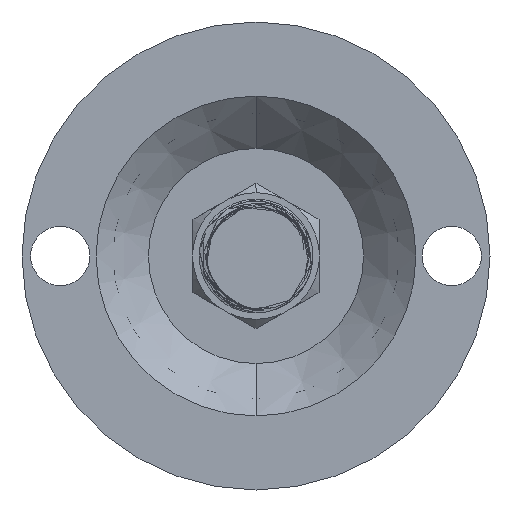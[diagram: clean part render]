
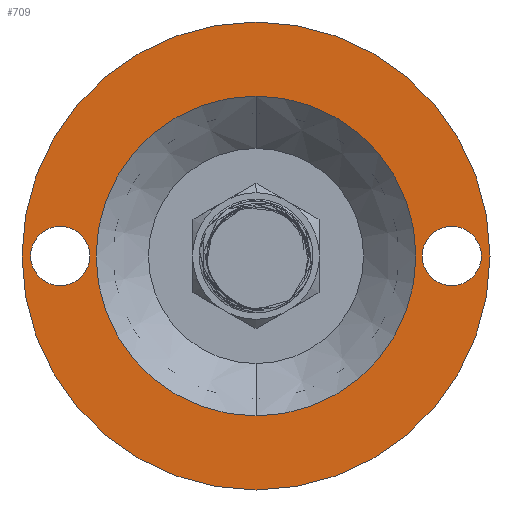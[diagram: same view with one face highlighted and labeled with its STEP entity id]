
A CAD part, front view. The second image highlights one B-rep face of the part: STEP entity #709.
In plain terms, the highlighted planar face has unit normal (0, -1, 0).
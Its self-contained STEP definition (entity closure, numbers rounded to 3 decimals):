
#93 = FACE_BOUND ( 'NONE', #3956, .T. ) ;
#267 = AXIS2_PLACEMENT_3D ( 'NONE', #12745, #2588, #3777 ) ;
#343 = AXIS2_PLACEMENT_3D ( 'NONE', #14501, #2248, #3191 ) ;
#350 = DIRECTION ( 'NONE',  ( 0., 1., 0. ) ) ;
#618 = EDGE_CURVE ( 'NONE', #14143, #2706, #9465, .T. ) ;
#709 = ADVANCED_FACE ( 'NONE', ( #7819, #93, #2240, #11521 ), #6916, .T. ) ;
#771 = CIRCLE ( 'NONE', #6459, 49. ) ;
#915 = ORIENTED_EDGE ( 'NONE', *, *, #618, .T. ) ;
#1201 = ORIENTED_EDGE ( 'NONE', *, *, #13393, .T. ) ;
#1269 = EDGE_CURVE ( 'NONE', #9175, #9105, #3286, .T. ) ;
#1402 = AXIS2_PLACEMENT_3D ( 'NONE', #4876, #350, #13785 ) ;
#1449 = CARTESIAN_POINT ( 'NONE',  ( 0., 0., 0. ) ) ;
#1478 = DIRECTION ( 'NONE',  ( 0., -1., 0. ) ) ;
#1965 = EDGE_CURVE ( 'NONE', #9105, #9175, #7647, .T. ) ;
#2089 = CARTESIAN_POINT ( 'NONE',  ( -41., 0., 0. ) ) ;
#2240 = FACE_OUTER_BOUND ( 'NONE', #5464, .T. ) ;
#2248 = DIRECTION ( 'NONE',  ( 0., -1., 0. ) ) ;
#2324 = AXIS2_PLACEMENT_3D ( 'NONE', #4398, #10068, #10358 ) ;
#2588 = DIRECTION ( 'NONE',  ( 0., 1., 0. ) ) ;
#2625 = CARTESIAN_POINT ( 'NONE',  ( 0., 0., 49. ) ) ;
#2706 = VERTEX_POINT ( 'NONE', #5864 ) ;
#3191 = DIRECTION ( 'NONE',  ( 0., 0., -1. ) ) ;
#3286 = CIRCLE ( 'NONE', #1402, 6.2 ) ;
#3371 = EDGE_CURVE ( 'NONE', #8239, #11345, #771, .T. ) ;
#3503 = DIRECTION ( 'NONE',  ( 0., 0., -1. ) ) ;
#3777 = DIRECTION ( 'NONE',  ( 0., 0., 1. ) ) ;
#3956 = EDGE_LOOP ( 'NONE', ( #5958, #6934 ) ) ;
#4145 = ORIENTED_EDGE ( 'NONE', *, *, #3371, .T. ) ;
#4398 = CARTESIAN_POINT ( 'NONE',  ( 0., 0., -33.5 ) ) ;
#4485 = CARTESIAN_POINT ( 'NONE',  ( 0., 0., 0. ) ) ;
#4543 = CARTESIAN_POINT ( 'NONE',  ( 0., 0., -49. ) ) ;
#4812 = AXIS2_PLACEMENT_3D ( 'NONE', #1449, #12796, #11693 ) ;
#4876 = CARTESIAN_POINT ( 'NONE',  ( 41., 0., 0. ) ) ;
#5037 = VERTEX_POINT ( 'NONE', #9000 ) ;
#5117 = ORIENTED_EDGE ( 'NONE', *, *, #7380, .F. ) ;
#5150 = VERTEX_POINT ( 'NONE', #7056 ) ;
#5245 = CIRCLE ( 'NONE', #267, 6.2 ) ;
#5464 = EDGE_LOOP ( 'NONE', ( #1201, #4145 ) ) ;
#5675 = DIRECTION ( 'NONE',  ( 0., -1., 0. ) ) ;
#5864 = CARTESIAN_POINT ( 'NONE',  ( -41., 0., 6.2 ) ) ;
#5958 = ORIENTED_EDGE ( 'NONE', *, *, #1965, .T. ) ;
#6459 = AXIS2_PLACEMENT_3D ( 'NONE', #10064, #1478, #10132 ) ;
#6568 = EDGE_CURVE ( 'NONE', #2706, #14143, #5245, .T. ) ;
#6643 = CARTESIAN_POINT ( 'NONE',  ( 41., 0., 6.2 ) ) ;
#6780 = CARTESIAN_POINT ( 'NONE',  ( -41., 0., -6.2 ) ) ;
#6916 = PLANE ( 'NONE',  #2324 ) ;
#6934 = ORIENTED_EDGE ( 'NONE', *, *, #1269, .T. ) ;
#6991 = DIRECTION ( 'NONE',  ( 0., 1., 0. ) ) ;
#7056 = CARTESIAN_POINT ( 'NONE',  ( 0., 0., 33.5 ) ) ;
#7061 = DIRECTION ( 'NONE',  ( 0., 0., -1. ) ) ;
#7380 = EDGE_CURVE ( 'NONE', #5037, #5150, #12591, .T. ) ;
#7400 = ORIENTED_EDGE ( 'NONE', *, *, #6568, .T. ) ;
#7430 = AXIS2_PLACEMENT_3D ( 'NONE', #8117, #6991, #3503 ) ;
#7647 = CIRCLE ( 'NONE', #7430, 6.2 ) ;
#7819 = FACE_BOUND ( 'NONE', #7934, .T. ) ;
#7934 = EDGE_LOOP ( 'NONE', ( #915, #7400 ) ) ;
#8107 = AXIS2_PLACEMENT_3D ( 'NONE', #4485, #5675, #7061 ) ;
#8117 = CARTESIAN_POINT ( 'NONE',  ( 41., 0., 0. ) ) ;
#8239 = VERTEX_POINT ( 'NONE', #2625 ) ;
#8747 = AXIS2_PLACEMENT_3D ( 'NONE', #2089, #9697, #11083 ) ;
#9000 = CARTESIAN_POINT ( 'NONE',  ( 0., 0., -33.5 ) ) ;
#9105 = VERTEX_POINT ( 'NONE', #14512 ) ;
#9175 = VERTEX_POINT ( 'NONE', #6643 ) ;
#9367 = CIRCLE ( 'NONE', #343, 49. ) ;
#9465 = CIRCLE ( 'NONE', #8747, 6.2 ) ;
#9697 = DIRECTION ( 'NONE',  ( 0., 1., 0. ) ) ;
#10064 = CARTESIAN_POINT ( 'NONE',  ( 0., 0., 0. ) ) ;
#10068 = DIRECTION ( 'NONE',  ( 0., -1., 0. ) ) ;
#10132 = DIRECTION ( 'NONE',  ( 0., 0., -1. ) ) ;
#10358 = DIRECTION ( 'NONE',  ( 0., 0., -1. ) ) ;
#11083 = DIRECTION ( 'NONE',  ( 0., 0., 1. ) ) ;
#11345 = VERTEX_POINT ( 'NONE', #4543 ) ;
#11521 = FACE_BOUND ( 'NONE', #14592, .T. ) ;
#11693 = DIRECTION ( 'NONE',  ( 0., 0., -1. ) ) ;
#12591 = CIRCLE ( 'NONE', #8107, 33.5 ) ;
#12662 = ORIENTED_EDGE ( 'NONE', *, *, #12946, .F. ) ;
#12745 = CARTESIAN_POINT ( 'NONE',  ( -41., 0., 0. ) ) ;
#12796 = DIRECTION ( 'NONE',  ( 0., -1., 0. ) ) ;
#12946 = EDGE_CURVE ( 'NONE', #5150, #5037, #13820, .T. ) ;
#13393 = EDGE_CURVE ( 'NONE', #11345, #8239, #9367, .T. ) ;
#13785 = DIRECTION ( 'NONE',  ( 0., 0., -1. ) ) ;
#13820 = CIRCLE ( 'NONE', #4812, 33.5 ) ;
#14143 = VERTEX_POINT ( 'NONE', #6780 ) ;
#14501 = CARTESIAN_POINT ( 'NONE',  ( 0., 0., 0. ) ) ;
#14512 = CARTESIAN_POINT ( 'NONE',  ( 41., 0., -6.2 ) ) ;
#14592 = EDGE_LOOP ( 'NONE', ( #5117, #12662 ) ) ;
